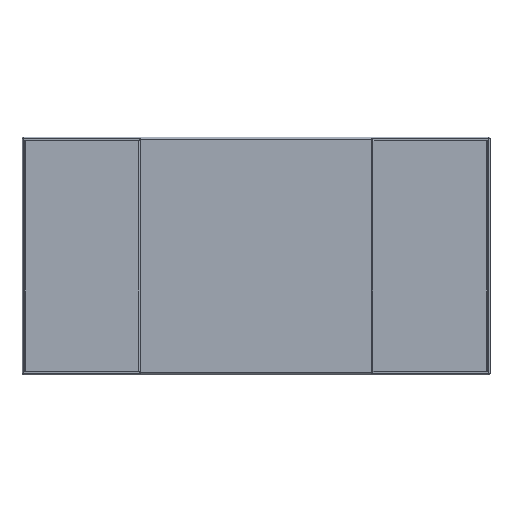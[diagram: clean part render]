
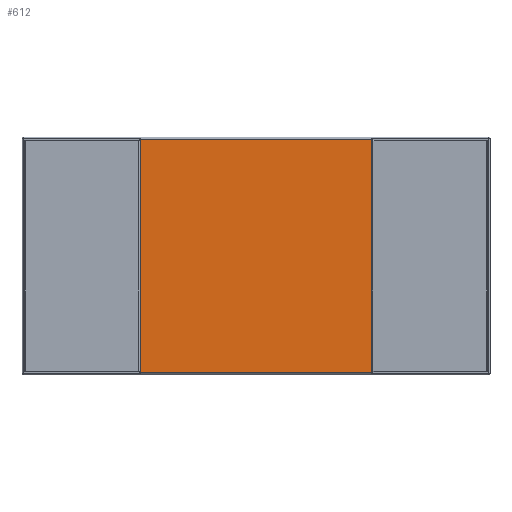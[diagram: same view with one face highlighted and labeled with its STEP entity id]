
A CAD part, top view. The second image highlights one B-rep face of the part: STEP entity #612.
In plain terms, the highlighted planar face has unit normal (0, 0, 1).
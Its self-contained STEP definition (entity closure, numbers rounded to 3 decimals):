
#612=ADVANCED_FACE('',(#1315),#1317,.T.);
#1315=FACE_BOUND('',#1316,.T.);
#1316=EDGE_LOOP('',(#1774,#1775,#1776,#1777));
#1317=PLANE('',#1318);
#1318=AXIS2_PLACEMENT_3D('',#1319,#1320,#1321);
#1319=CARTESIAN_POINT('',(0.,0.,0.585));
#1320=DIRECTION('',(0.,0.,1.));
#1321=DIRECTION('',(-1.,0.,0.));
#1774=ORIENTED_EDGE('',*,*,#2052,.T.);
#1775=ORIENTED_EDGE('',*,*,#2053,.T.);
#1776=ORIENTED_EDGE('',*,*,#2054,.T.);
#1777=ORIENTED_EDGE('',*,*,#2055,.T.);
#2052=EDGE_CURVE('',#2315,#2316,#2317,.T.);
#2053=EDGE_CURVE('',#2316,#2318,#2319,.T.);
#2054=EDGE_CURVE('',#2318,#2320,#2321,.T.);
#2055=EDGE_CURVE('',#2320,#2315,#2322,.T.);
#2315=VERTEX_POINT('',#2900);
#2316=VERTEX_POINT('',#2901);
#2317=LINE('',#2902,#2903);
#2318=VERTEX_POINT('',#2905);
#2319=LINE('',#2906,#2907);
#2320=VERTEX_POINT('',#2909);
#2321=LINE('',#2910,#2911);
#2322=LINE('',#2913,#2914);
#2900=CARTESIAN_POINT('',(-1.555,1.574,0.585));
#2901=CARTESIAN_POINT('',(-1.555,-1.574,0.585));
#2902=CARTESIAN_POINT('',(-1.555,1.574,0.585));
#2903=VECTOR('',#2904,1.);
#2904=DIRECTION('',(0.,-1.,0.));
#2905=CARTESIAN_POINT('',(1.555,-1.574,0.585));
#2906=CARTESIAN_POINT('',(-1.555,-1.574,0.585));
#2907=VECTOR('',#2908,1.);
#2908=DIRECTION('',(1.,0.,0.));
#2909=CARTESIAN_POINT('',(1.555,1.574,0.585));
#2910=CARTESIAN_POINT('',(1.555,-1.574,0.585));
#2911=VECTOR('',#2912,1.);
#2912=DIRECTION('',(0.,1.,0.));
#2913=CARTESIAN_POINT('',(1.555,1.574,0.585));
#2914=VECTOR('',#2915,1.);
#2915=DIRECTION('',(-1.,0.,0.));
